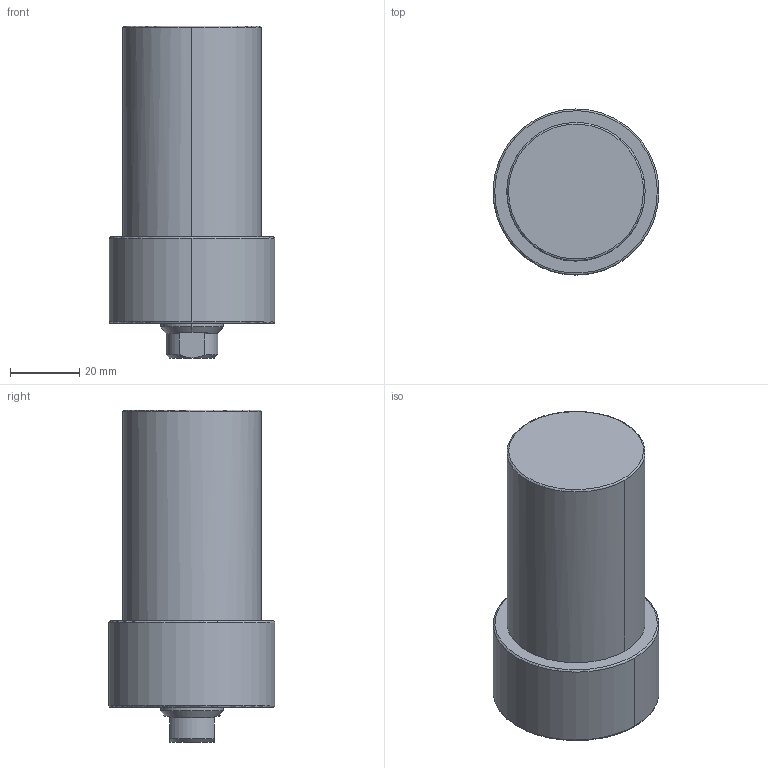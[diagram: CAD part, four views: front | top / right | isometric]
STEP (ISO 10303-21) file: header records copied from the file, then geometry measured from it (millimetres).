
FILE_DESCRIPTION((' '),'2;1');
FILE_NAME( 'TLLU-040GA-050.STEP.stp', '2025-10-24T16:37:11', (' '), ('--- Datakit www.datakit.com---'), ' Datakit CrossCadWare V2024.1 Dec 21 2023', 'Mastercam 2025', ' ');
FILE_SCHEMA(('AUTOMOTIVE_DESIGN { 1 0 10303 214 1 1 1 1 }'));
Length unit declared in the file: millimetre
Products named in the file (1): TLLU-040GA-050
Bounding box: 47.99 x 48 x 96 mm (x, y, z)
Volume: 121906 mm3; surface area: 16649.2 mm2
Topology: 1 solids, 1 shells, 62 faces, 180 edges, 119 vertices
Faces by surface type: cone 24, cylinder 22, plane 10, torus 6
Entity records: 2106 total; most frequent: DIRECTION 402, CARTESIAN_POINT 388, ORIENTED_EDGE 340, AXIS2_PLACEMENT_3D 177, EDGE_CURVE 170, VERTEX_POINT 119, CIRCLE 114, EDGE_LOOP 71
